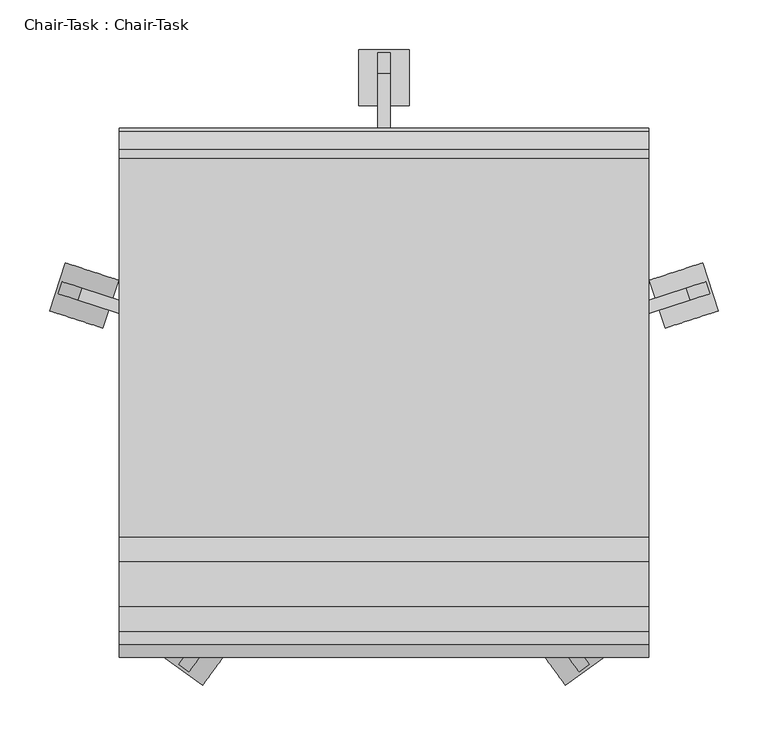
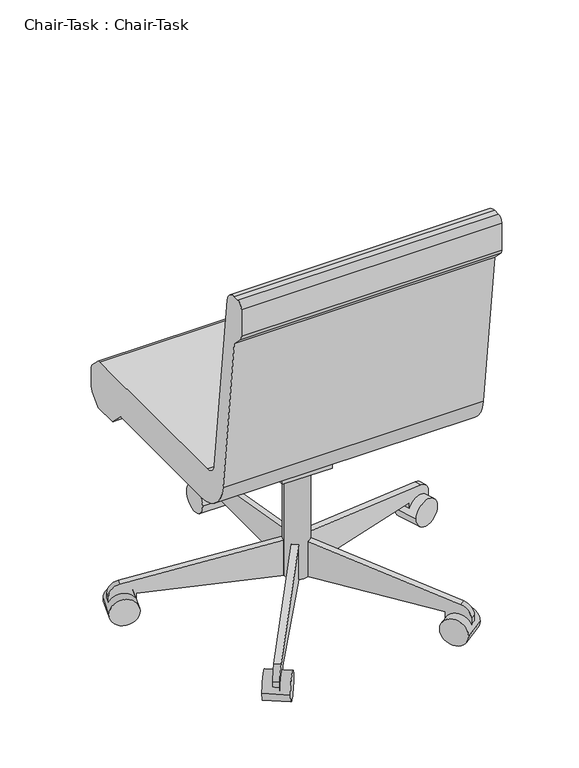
"""IFC4 building model written with IfcOpenShell, lengths in millimetres: furniture geometry, Chair-Task : Chair-Task."""

from ifc_helpers import new_model, si_unit, point, frame, frame_2d, origin, place, context, project, spatial, polyline, circle_curve, trimmed, segment, composite_curve, outline, extrude, source, transform, mapped, element, save


def chair_task_chair_task_acf55384(model_context):
    return source(origin(), model_context, "Body", "SweptSolid", [
        extrude(outline(composite_curve([segment(trimmed(circle_curve(frame_2d((140.9908197, 18.9459016)), 25.4), [point((115.5908197, 18.9459016))], [point((166.3908197, 18.9459016))], False, "CARTESIAN"), True, "CONTINUOUS"), segment(trimmed(circle_curve(frame_2d((140.9908197, 18.9459016)), 25.4), [point((166.3908197, 18.9459016))], [point((115.5908197, 18.9459016))], False, "CARTESIAN"), True, "CONTINUOUS")], self_intersect=False)), frame((0.0, 0.0, 53.5835944), z_axis=(0.0, 0.0, 1.0), x_axis=(1.0, 0.0, 0.0)), (0.0, 0.0, 1.0), 330.5914056),
        extrude(outline(composite_curve([segment(trimmed(circle_curve(frame_2d((0.0, -28.2002727)), 28.2002727), [point((0.0, -56.4005455))], [point((0.0, 0.0))], False, "CARTESIAN"), True, "CONTINUOUS"), segment(trimmed(circle_curve(frame_2d((0.0, -28.2002727)), 28.2002727), [point((0.0, 0.0))], [point((0.0, -56.4005455))], False, "CARTESIAN"), True, "CONTINUOUS")], self_intersect=False)), frame((477.6203484, 101.6163254, 28.1835944), z_axis=(-0.3090169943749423, 0.9510565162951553, 0.0), x_axis=(0.0, 0.0, 1.0)), (0.0, 0.0, 1.0), 50.8),
        extrude(outline(composite_curve([segment(polyline([(-25.4, 0.0), (0.0, 0.0), (0.0, -50.8), (-24.303053, -50.8)]), True, "CONTINUOUS"), segment(trimmed(circle_curve(frame_2d((-24.303053, -25.4)), 25.4), [point((-24.303053, -50.8))], [point((-49.3171699, -29.8106637))], False, "CARTESIAN"), True, "CONTINUOUS"), segment(polyline([(-49.3171699, -29.8106637), (-101.6, 266.7), (-101.6, 292.1), (-25.4, 292.1), (-25.4, 0.0)]), True, "CONTINUOUS")], self_intersect=False)), frame((420.756686, 103.1705568, 28.1835944), z_axis=(-0.3090169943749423, 0.9510565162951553, 0.0), x_axis=(0.0, 0.0, -1.0)), (0.0, 0.0, 1.0), 12.7),
        extrude(outline(composite_curve([segment(trimmed(circle_curve(frame_2d((0.0, -28.2002727)), 28.2002727), [point((0.0, -56.4005455))], [point((0.0, 0.0))], False, "CARTESIAN"), True, "CONTINUOUS"), segment(trimmed(circle_curve(frame_2d((0.0, -28.2002727)), 28.2002727), [point((0.0, 0.0))], [point((0.0, -56.4005455))], False, "CARTESIAN"), True, "CONTINUOUS")], self_intersect=False)), frame((323.63931, -275.6612394, 28.1835944), z_axis=(0.8090169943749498, 0.5877852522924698, 0.0), x_axis=(0.0, 0.0, 1.0)), (0.0, 0.0, 1.0), 50.8),
        extrude(outline(composite_curve([segment(polyline([(-25.4, 0.0), (0.0, 0.0), (0.0, -50.8), (-24.303053, -50.8)]), True, "CONTINUOUS"), segment(trimmed(circle_curve(frame_2d((-24.303053, -25.3999999)), 25.4), [point((-24.303053, -50.8))], [point((-49.3171699, -29.8106636))], False, "CARTESIAN"), True, "CONTINUOUS"), segment(polyline([(-49.3171699, -29.8106636), (-101.6, 266.7), (-101.6, 292.1), (-25.4, 292.1), (-25.4, 0.0)]), True, "CONTINUOUS")], self_intersect=False)), frame((307.545634, -221.1003988, 28.1835944), z_axis=(0.8090169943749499, 0.5877852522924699, 0.0), x_axis=(0.0, 0.0, -1.0)), (0.0, 0.0, 1.0), 12.7),
        extrude(outline(composite_curve([segment(trimmed(circle_curve(frame_2d((0.0, -28.2002727)), 28.2002727), [point((0.0, -56.4005455))], [point((0.0, 0.0))], False, "CARTESIAN"), True, "CONTINUOUS"), segment(trimmed(circle_curve(frame_2d((0.0, -28.2002727)), 28.2002727), [point((0.0, 0.0))], [point((0.0, -56.4005455))], False, "CARTESIAN"), True, "CONTINUOUS")], self_intersect=False)), frame((-41.6576707, -275.6612394, 28.1835944), z_axis=(-0.8090169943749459, 0.5877852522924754, 0.0), x_axis=(0.0, 0.0, -1.0)), (0.0, 0.0, 1.0), 50.8),
        extrude(outline(composite_curve([segment(polyline([(25.4, 0.0), (25.4, 292.1), (101.6, 292.1), (101.6, 266.7), (49.3171699, -29.8106637)]), True, "CONTINUOUS"), segment(trimmed(circle_curve(frame_2d((24.303053, -25.3999999)), 25.4), [point((49.3171699, -29.8106637))], [point((24.303053, -50.8))], False, "CARTESIAN"), True, "CONTINUOUS"), segment(polyline([(24.303053, -50.8), (0.0, -50.8), (0.0, 0.0), (25.4, 0.0)]), True, "CONTINUOUS")], self_intersect=False)), frame((-25.5639946, -221.1003988, 28.1835944), z_axis=(-0.8090169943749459, 0.5877852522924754, 0.0), x_axis=(0.0, 0.0, 1.0)), (0.0, 0.0, 1.0), 12.7),
        extrude(outline(composite_curve([segment(trimmed(circle_curve(frame_2d((0.0, -28.2002727)), 28.2002727), [point((0.0, -56.4005454))], [point((0.0, 0.0))], False, "CARTESIAN"), True, "CONTINUOUS"), segment(trimmed(circle_curve(frame_2d((0.0, -28.2002727)), 28.2002727), [point((0.0, 0.0))], [point((0.0, -56.4005454))], False, "CARTESIAN"), True, "CONTINUOUS")], self_intersect=False)), frame((-195.638709, 101.6163254, 28.1835944), z_axis=(0.3090169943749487, 0.9510565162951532, 0.0), x_axis=(0.0, 0.0, -1.0)), (0.0, 0.0, 1.0), 50.8),
        extrude(outline(composite_curve([segment(polyline([(25.4, 0.0), (25.4, 292.1000001), (101.6, 292.1000001), (101.6, 266.7), (49.3171699, -29.8106636)]), True, "CONTINUOUS"), segment(trimmed(circle_curve(frame_2d((24.303053, -25.4)), 25.4), [point((49.3171699, -29.8106636))], [point((24.303053, -50.8))], False, "CARTESIAN"), True, "CONTINUOUS"), segment(polyline([(24.303053, -50.8), (0.0, -50.8), (0.0, 0.0), (25.4, 0.0)]), True, "CONTINUOUS")], self_intersect=False)), frame((-138.7750467, 103.1705568, 28.1835944), z_axis=(0.3090169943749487, 0.9510565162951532, 0.0), x_axis=(0.0, 0.0, 1.0)), (0.0, 0.0, 1.0), 12.7),
        extrude(outline(composite_curve([segment(trimmed(circle_curve(frame_2d((336.4459016, 28.1835944)), 28.2002727), [point((308.2456289, 28.1835944))], [point((364.6461744, 28.1835944))], False, "CARTESIAN"), True, "CONTINUOUS"), segment(trimmed(circle_curve(frame_2d((336.4459016, 28.1835944)), 28.2002727), [point((364.6461744, 28.1835944))], [point((308.2456289, 28.1835944))], False, "CARTESIAN"), True, "CONTINUOUS")], self_intersect=False)), frame((115.5908197, 0.0, 0.0), z_axis=(1.0, 0.0, 0.0), x_axis=(0.0, 1.0, 0.0)), (0.0, 0.0, 1.0), 50.8),
        extrude(outline(composite_curve([segment(polyline([(311.0459016, 53.5835944), (18.9459016, 53.5835944), (18.9459016, 129.7835944), (44.3459016, 129.7835944), (340.8565654, 77.5007643)]), True, "CONTINUOUS"), segment(trimmed(circle_curve(frame_2d((336.4459016, 52.4866474)), 25.4), [point((340.8565654, 77.5007643))], [point((361.8459016, 52.4866474))], False, "CARTESIAN"), True, "CONTINUOUS"), segment(polyline([(361.8459016, 52.4866474), (361.8459016, 28.1835944), (311.0459016, 28.1835944), (311.0459016, 53.5835944)]), True, "CONTINUOUS")], self_intersect=False)), frame((134.6408197, 0.0, 0.0), z_axis=(1.0, 0.0, 0.0), x_axis=(0.0, 1.0, 0.0)), (0.0, 0.0, 1.0), 12.7),
        extrude(outline(polyline([(69.7459016, 383.7835944), (69.7459016, 371.0835944), (18.9459016, 283.0954134), (-19.1540984, 283.0954134), (-19.1540984, 383.7835944), (69.7459016, 383.7835944)])), frame((90.1908197, 0.0, 0.0), z_axis=(1.0, 0.0, 0.0), x_axis=(0.0, 1.0, 0.0)), (0.0, 0.0, 1.0), 101.6),
        extrude(outline(composite_curve([segment(polyline([(-126.2050455, 457.2), (255.0102301, 457.2)]), True, "CONTINUOUS"), segment(trimmed(circle_curve(frame_2d((255.0102301, 444.5)), 12.7), [point((255.0102301, 457.2))], [point((263.9604301, 453.510212))], False, "CARTESIAN"), True, "CONTINUOUS"), segment(polyline([(263.9604301, 453.510212), (281.8961016, 435.6939999)]), True, "CONTINUOUS"), segment(trimmed(circle_curve(frame_2d((272.9459016, 426.6837879)), 12.7), [point((281.8961016, 435.6939999))], [point((285.6459016, 426.6837879))], False, "CARTESIAN"), True, "CONTINUOUS"), segment(polyline([(285.6459016, 426.6837879), (285.6459016, 391.6405184)]), True, "CONTINUOUS"), segment(trimmed(circle_curve(frame_2d((260.2459016, 391.6405184)), 25.4), [point((285.6459016, 391.6405184))], [point((278.2663256, 373.7401184))], False, "CARTESIAN"), True, "CONTINUOUS"), segment(polyline([(278.2663256, 373.7401184), (260.2470284, 355.6), (209.4470284, 355.6), (181.0744602, 383.7835944), (-107.1089978, 383.7835944)]), True, "CONTINUOUS"), segment(trimmed(circle_curve(frame_2d((-107.1089978, 459.9835944)), 76.2), [point((-107.1089978, 383.7835944))], [point((-182.7870738, 451.0802913))], False, "CARTESIAN"), True, "CONTINUOUS"), segment(polyline([(-182.7870738, 451.0802913), (-222.3540984, 787.4), (-244.0343545, 809.0802561)]), True, "CONTINUOUS"), segment(trimmed(circle_curve(frame_2d((-235.0540984, 818.0605122)), 12.7), [point((-244.0343545, 809.0802561))], [point((-247.7540984, 818.0605122))], False, "CARTESIAN"), True, "CONTINUOUS"), segment(polyline([(-247.7540984, 818.0605122), (-247.7540984, 876.3)]), True, "CONTINUOUS"), segment(trimmed(circle_curve(frame_2d((-235.0540984, 876.3)), 12.7), [point((-247.7540984, 876.3))], [point((-235.0540984, 889.0))], False, "CARTESIAN"), True, "CONTINUOUS"), segment(polyline([(-235.0540984, 889.0), (-222.1789239, 889.0)]), True, "CONTINUOUS"), segment(trimmed(circle_curve(frame_2d((-222.1789239, 863.6)), 25.4), [point((-222.1789239, 889.0))], [point((-196.9528985, 866.5677677))], False, "CARTESIAN"), True, "CONTINUOUS"), segment(polyline([(-196.9528985, 866.5677677), (-151.4310708, 479.6322323)]), True, "CONTINUOUS"), segment(trimmed(circle_curve(frame_2d((-126.2050455, 482.6)), 25.4), [point((-151.4310708, 479.6322323))], [point((-126.2050455, 457.2))], True, "CARTESIAN"), True, "CONTINUOUS")], self_intersect=False)), frame((-125.7091803, 0.0, 0.0), z_axis=(1.0, 0.0, 0.0), x_axis=(0.0, 1.0, 0.0)), (0.0, 0.0, 1.0), 533.4),
    ])


if __name__ == "__main__":
    model = new_model("IFC4")
    model_context = context("Model", 3, world=origin())
    ifc_project = project(units=[si_unit("LENGTHUNIT", "METRE", prefix="MILLI")], contexts=[model_context])
    site = spatial("IfcSite", under=ifc_project)
    building = spatial("IfcBuilding", under=site)
    placement = place(None, origin())
    chair_task_chair_task_shape = chair_task_chair_task_acf55384(model_context)
    element("IfcFurniture", 1, ObjectType="Chair-Task : Chair-Task", at=placement, inside=building, context=model_context, shape_type="MappedRepresentation", body=[
        mapped(chair_task_chair_task_shape, transform((0.0, 0.0, 0.0), x_axis=(1.0, 0.0, 0.0), y_axis=(0.0, 1.0, 0.0), z_axis=(0.0, 0.0, 1.0))),
    ])
    save(model, "model.ifc")
